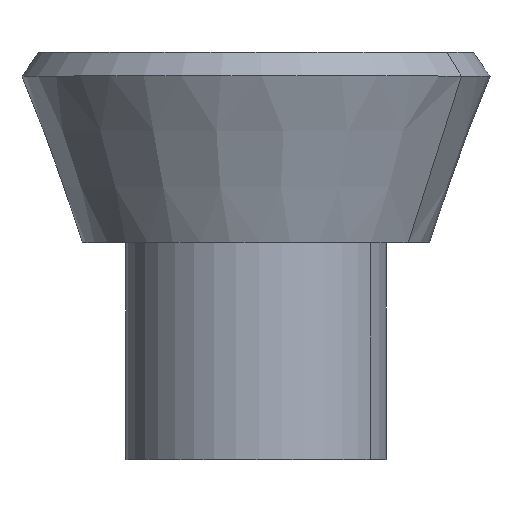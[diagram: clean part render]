
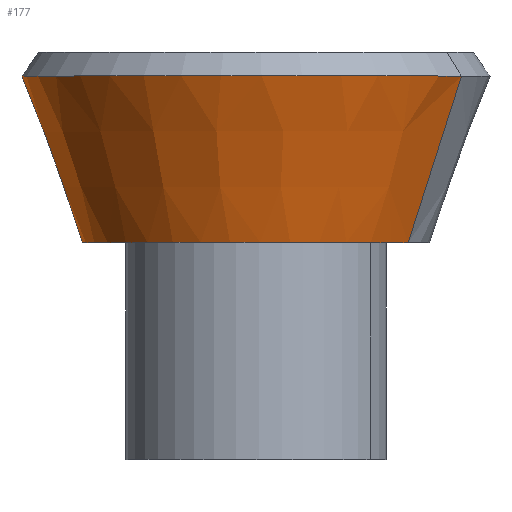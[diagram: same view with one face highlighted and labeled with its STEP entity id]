
A CAD part, top view. The second image highlights one B-rep face of the part: STEP entity #177.
In plain terms, the highlighted conical face has half-angle 20 degrees and reference radius 120 mm.
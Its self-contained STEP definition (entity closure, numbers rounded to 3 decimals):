
#114=CARTESIAN_POINT('Axis2P3D Location',(0.,0.,0.)) ;
#118=CARTESIAN_POINT('Vertex',(105.31,0.,57.531)) ;
#120=CARTESIAN_POINT('Vertex',(-105.31,0.,-57.531)) ;
#147=CARTESIAN_POINT('Axis2P3D Location',(0.,0.,0.)) ;
#152=CARTESIAN_POINT('Line Origine',(123.704,57.587,67.58)) ;
#156=CARTESIAN_POINT('Vertex',(142.098,115.174,77.629)) ;
#159=CARTESIAN_POINT('Axis2P3D Location',(0.,115.174,0.)) ;
#163=CARTESIAN_POINT('Vertex',(-142.098,115.174,-77.629)) ;
#166=CARTESIAN_POINT('Line Origine',(-123.704,57.587,-67.58)) ;
#115=DIRECTION('Axis2P3D Direction',(0.,-1.,0.)) ;
#148=DIRECTION('Axis2P3D Direction',(-0.,1.,-0.)) ;
#149=DIRECTION('Axis2P3D XDirection',(0.878,0.,0.479)) ;
#153=DIRECTION('Vector Direction',(0.3,0.94,0.164)) ;
#160=DIRECTION('Axis2P3D Direction',(0.,1.,-0.)) ;
#167=DIRECTION('Vector Direction',(-0.3,0.94,-0.164)) ;
#116=AXIS2_PLACEMENT_3D('Circle Axis2P3D',#114,#115,$) ;
#150=AXIS2_PLACEMENT_3D('Cone Axis2P3D',#147,#148,#149) ;
#161=AXIS2_PLACEMENT_3D('Circle Axis2P3D',#159,#160,$) ;
#172=ORIENTED_EDGE('',*,*,#122,.F.) ;
#173=ORIENTED_EDGE('',*,*,#158,.T.) ;
#174=ORIENTED_EDGE('',*,*,#165,.T.) ;
#175=ORIENTED_EDGE('',*,*,#170,.F.) ;
#154=VECTOR('Line Direction',#153,1.) ;
#168=VECTOR('Line Direction',#167,1.) ;
#177=ADVANCED_FACE('PartBody',(#176),#151,.T.) ;
#117=CIRCLE('generated circle',#116,120.) ;
#162=CIRCLE('generated circle',#161,161.92) ;
#151=CONICAL_SURFACE('Cone',#150,120.,0.349) ;
#122=EDGE_CURVE('',#119,#121,#117,.T.) ;
#158=EDGE_CURVE('',#119,#157,#155,.T.) ;
#165=EDGE_CURVE('',#157,#164,#162,.F.) ;
#170=EDGE_CURVE('',#121,#164,#169,.T.) ;
#171=EDGE_LOOP('',(#172,#173,#174,#175)) ;
#176=FACE_OUTER_BOUND('',#171,.T.) ;
#155=LINE('Line',#152,#154) ;
#169=LINE('Line',#166,#168) ;
#119=VERTEX_POINT('',#118) ;
#121=VERTEX_POINT('',#120) ;
#157=VERTEX_POINT('',#156) ;
#164=VERTEX_POINT('',#163) ;
